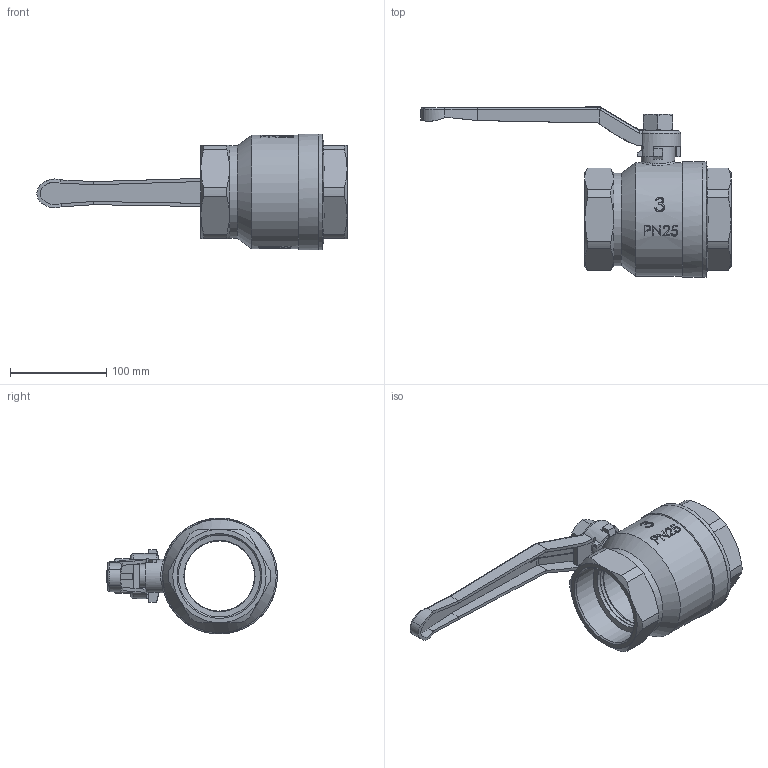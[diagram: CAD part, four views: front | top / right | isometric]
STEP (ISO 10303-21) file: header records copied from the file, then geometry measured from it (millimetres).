
FILE_DESCRIPTION(/* description */ (''),/* implementation_level */ '2;1');
FILE_NAME(/* name */ '',/* time_stamp */ '2016-12-15T10:51:26+01:00',/* author */ ('hamoud'),/* organization */ (''),/* preprocessor_version */ 'ST-DEVELOPER v15.6',/* originating_system */ 'Autodesk Inventor LT ',/* authorisation */ '');
FILE_SCHEMA (('AUTOMOTIVE_DESIGN { 1 0 10303 214 3 1 1 }'));
Length unit declared in the file: millimetre
Products named in the file (1): part
Bounding box: 322.48 x 177.55 x 120.5 mm (x, y, z)
Volume: 586475.4 mm3; surface area: 280450.8 mm2
Topology: 11 solids, 11 shells, 430 faces, 1127 edges, 751 vertices
Faces by surface type: plane 166, bspline 101, cylinder 92, cone 47, torus 21, sphere 3
Full cylindrical faces by diameter (mm): 19.7 x1, 20.1 x4, 23 x1, 24 x4, 27 x1, 28.5 x1, 35 x1, 73 x1, 74 x4, 80.6 x1, 85.2 x2, 90 x4, 96 x1, 96.5 x1, 104 x1, 112.2 x1, 113.8 x1, 114.5 x1, 118 x1, 120.5 x2
Entity records: 32069 total; most frequent: CARTESIAN_POINT 22612, ORIENTED_EDGE 2046, DIRECTION 1642, EDGE_CURVE 1023, VERTEX_POINT 720, AXIS2_PLACEMENT_3D 597, EDGE_LOOP 559, LINE 448
